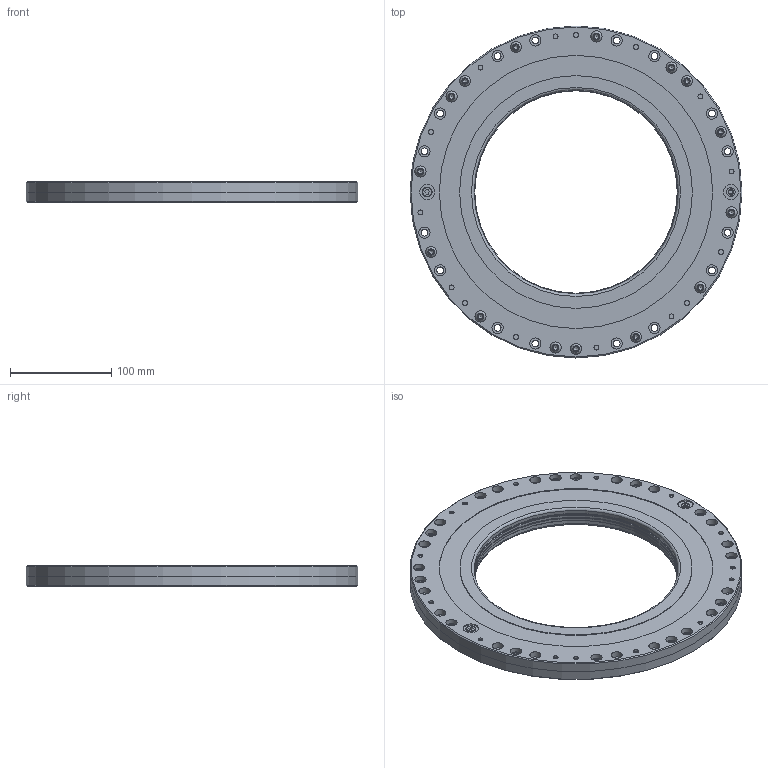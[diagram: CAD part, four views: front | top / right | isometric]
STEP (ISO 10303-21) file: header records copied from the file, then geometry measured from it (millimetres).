
FILE_DESCRIPTION(/* description */ ('Unknown'),/* implementation_level */ '2;1');
FILE_NAME(/* name */ '10022516_RotoClamp RC 200 N',/* time_stamp */ '2024-11-11T10:11:07+01:00',/* author */ ('Unknown'),/* organization */ ('Unknown'),/* preprocessor_version */ 'ST-DEVELOPER v19.4',/* originating_system */ 'Solid Edge',/* authorisation */ 'Unknown');
FILE_SCHEMA (('AUTOMOTIVE_DESIGN {1 0 10303 214 3 1 1}'));
Length unit declared in the file: millimetre
Products named in the file (7): 10022516; Gewindestift DIN 913 - M6x4 VA; Linsenkopfschraube ISO 7380 TX M6 x 12 Ph 012.9; 34-00-0108-E001; 34-06-0064-E001; 34-06-0051-E001; Verschlussschraube G1;8 x 4,5
Assembly tree (38 placements, depth 2):
  10022516
    Gewindestift DIN 913 - M6x4 VA
    Linsenkopfschraube ISO 7380 TX M6 x 12 Ph 012.9  x30
    34-00-0108-E001  x2
    34-06-0064-E001
    34-06-0051-E001
    Verschlussschraube G1;8 x 4,5  x3
Bounding box: 328 x 328 x 20.4 mm (x, y, z)
Volume: 991419.6 mm3; surface area: 281709.8 mm2
Topology: 38 solids, 38 shells, 1643 faces, 3930 edges, 2453 vertices
Faces by surface type: cylinder 997, cone 268, plane 221, torus 127, sphere 30
Full cylindrical faces by diameter (mm): 1.5 x5, 4.917 x31, 5.6 x30, 6 x62, 6.8 x63, 7.4 x1, 8.4 x1, 8.566 x4, 9.728 x4, 10.5 x30, 11 x64, 15 x4, 200 x2, 230 x2, 270 x2, 328 x2
Entity records: 9921 total; most frequent: CARTESIAN_POINT 2240, DIRECTION 1192, ORIENTED_EDGE 982, FACE_BOUND 548, EDGE_LOOP 546, AXIS2_PLACEMENT_3D 545, EDGE_CURVE 491, VERTEX_POINT 389
